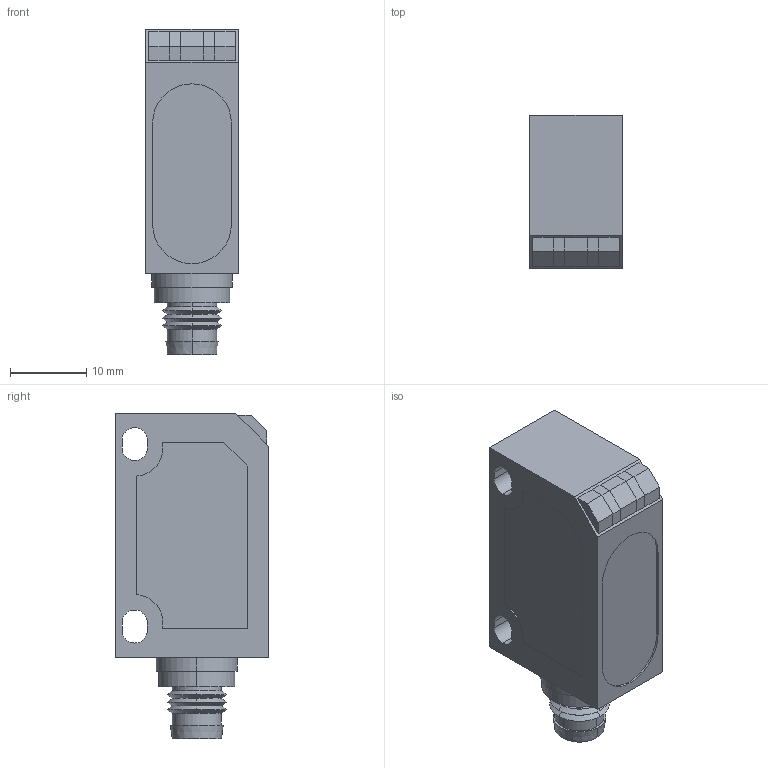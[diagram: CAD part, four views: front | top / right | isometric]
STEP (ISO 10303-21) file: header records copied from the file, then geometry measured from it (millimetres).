
FILE_DESCRIPTION (( 'STEP AP203' ), '1' );
FILE_NAME ('90-28292-004.STEP', '2013-02-16T18:27:24', ( 'Sam' ), ( 'Spade' ), 'SwSTEP 2.0', 'SolidWorks 2002296', '' );
FILE_SCHEMA (( 'CONFIG_CONTROL_DESIGN' ));
Length unit declared in the file: inch
Products named in the file (11): 90-28292-004; Imported35; Imported34; Imported30; Imported29; Imported28; Imported37; Imported36; Imported33; Imported32; Imported31
Assembly tree (10 placements, depth 2):
  90-28292-004
    Imported29
    Imported28
    Imported37
    Imported33
    Imported32
    Imported34
    Imported35
    Imported30
    Imported31
    Imported36
Bounding box: 12.06 x 20.07 x 42.6 mm (x, y, z)
Volume: 7738.2 mm3; surface area: 4304.8 mm2
Topology: 12 solids, 12 shells, 136 faces, 313 edges, 200 vertices
Faces by surface type: plane 75, cylinder 34, cone 19, bspline 8
Entity records: 5088 total; most frequent: CARTESIAN_POINT 774, DIRECTION 695, ORIENTED_EDGE 610, EDGE_CURVE 305, AXIS2_PLACEMENT_3D 249, VERTEX_POINT 200, LINE 197, VECTOR 197
